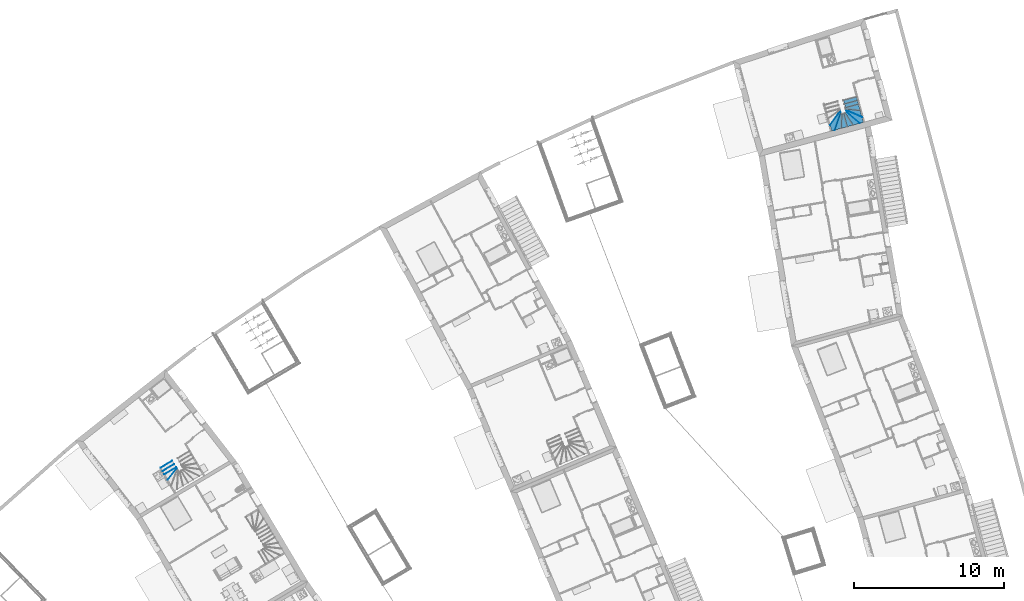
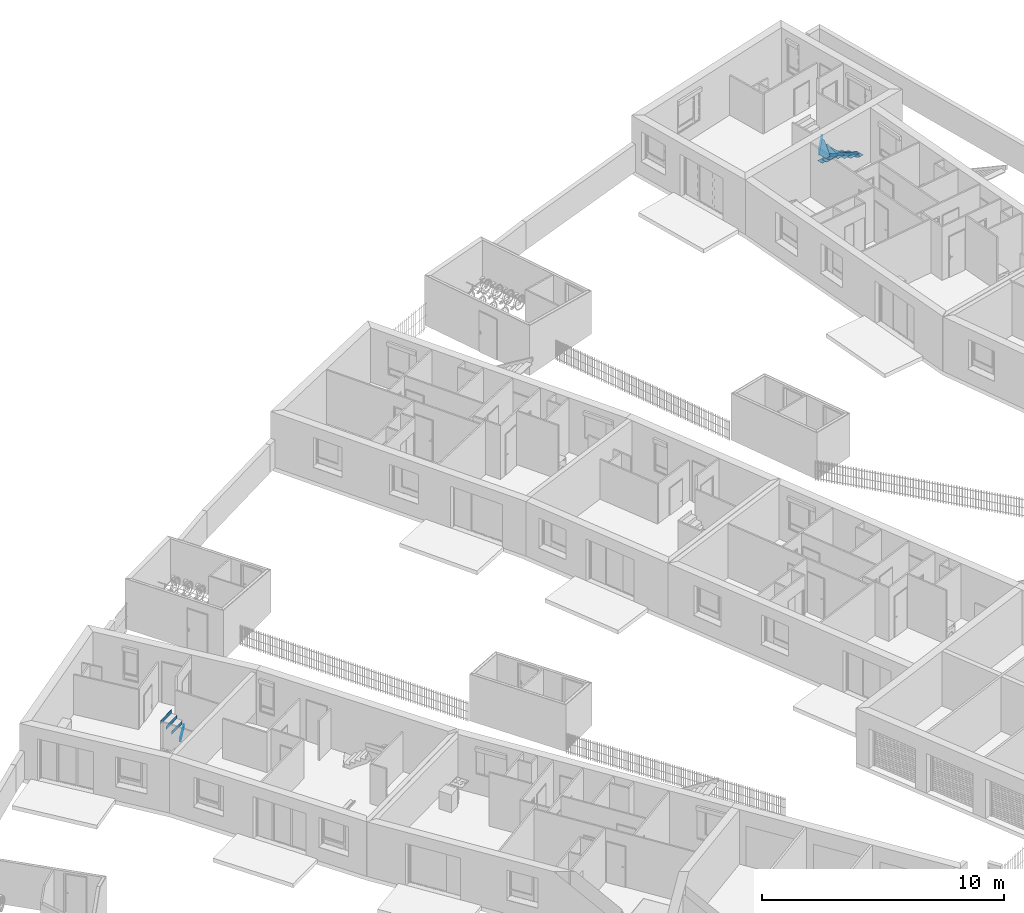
# One storey, part 103 of 195: 33 members, 4 elements without a shape of their own.
"""IFC2X3 building model written with IfcOpenShell, lengths in metres."""

from ifc_helpers import new_model, entity, si_unit, converted_unit, derived_unit, money_unit, direction, frame, origin_with_axes, place, context, subcontext, project, spatial, faceted_brep, material, type_object, element, aggregate, save


model = new_model("IFC2X3")

# Units and contexts
model_context = context("Model", 3, precision=1e-05, world=origin_with_axes(), true_north=direction((0.0, 1.0)))
body_context = subcontext(model_context, "Body", "Model", "MODEL_VIEW")
ifc_project = project(units=[si_unit("LENGTHUNIT", "METRE"), si_unit("AREAUNIT", "SQUARE_METRE"), si_unit("VOLUMEUNIT", "CUBIC_METRE"), converted_unit("PLANEANGLEUNIT", "DEGREE", entity("IfcPlaneAngleMeasure", 0.0174532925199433), si_unit("PLANEANGLEUNIT", "RADIAN"), dimensions=[0, 0, 0, 0, 0, 0, 0]), money_unit("CHF"), converted_unit("TIMEUNIT", "Year", entity("IfcTimeMeasure", 31557600.0), si_unit("TIMEUNIT", "SECOND"), dimensions=[0, 0, 1, 0, 0, 0, 0]), si_unit("MASSUNIT", "GRAM", prefix="KILO"), si_unit("THERMODYNAMICTEMPERATUREUNIT", "DEGREE_CELSIUS"), si_unit("LUMINOUSINTENSITYUNIT", "LUMEN"), si_unit("ENERGYUNIT", "JOULE", prefix="MEGA"), derived_unit("THERMALCONDUCTANCEUNIT", [(si_unit("POWERUNIT", "WATT"), 1), (si_unit("LENGTHUNIT", "METRE"), -1), (si_unit("THERMODYNAMICTEMPERATUREUNIT", "KELVIN"), -1)]), derived_unit("SPECIFICHEATCAPACITYUNIT", [(si_unit("ENERGYUNIT", "JOULE"), 1), (si_unit("MASSUNIT", "GRAM", prefix="KILO"), -1), (si_unit("THERMODYNAMICTEMPERATUREUNIT", "KELVIN"), -1)]), derived_unit("MASSDENSITYUNIT", [(si_unit("MASSUNIT", "GRAM", prefix="KILO"), 1), (si_unit("VOLUMEUNIT", "CUBIC_METRE"), -1)])], contexts=[model_context])

# Site, building, storey
site_placement = place(None, origin_with_axes())
site = spatial("IfcSite", under=ifc_project, at=site_placement, Name="Site", CompositionType="ELEMENT")
building_placement = place(site_placement, origin_with_axes())
building = spatial("IfcBuilding", under=site, at=building_placement, Name="Bâtiment", CompositionType="ELEMENT")
storey_placement = place(building_placement, origin_with_axes())
storey = spatial("IfcBuildingStorey", under=building, at=storey_placement, Name="rdc", CompositionType="ELEMENT", Elevation=0.0)

# Stair, members
stair_1_placement = place(storey_placement, frame((9542.358293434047, -1043.385861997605, 57.0), z_axis=(0.0, 0.0, 1.0), x_axis=(0.5118296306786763, -0.8590869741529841, 0.0)))
stair_1 = element("IfcStair", 1, at=stair_1_placement, inside=storey, Name="ESC-014", ShapeType="NOTDEFINED")
ifc_material = material(Name="Lame d'air 275581351")
member_type = type_object("IfcMemberType", Name="IfcMember", PredefinedType="NOTDEFINED")
member_1_placement = place(stair_1_placement, frame((-0.3574520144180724, -1.73797666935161, 2.329999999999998), z_axis=(0.0, 0.0, 1.0), x_axis=(-2.364303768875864e-07, 0.9999999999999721, 0.0)))
member_1 = element("IfcMember", 2, at=member_1_placement, type_object=member_type, material=ifc_material, Name="C-MARCHE-243", context=body_context, shape_type="Brep", body=[
    faceted_brep([(0.4600000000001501, 0.01499999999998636, 0.0), (0.4600000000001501, 0.02499999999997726, 0.0), (-0.4399999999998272, 0.02500000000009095, 0.0), (-0.4399999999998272, 0.01499999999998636, 0.0), (0.4600000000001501, 0.01499999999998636, -0.1700000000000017), (0.4600000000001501, 0.02499999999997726, -0.1700000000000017), (-0.4399999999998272, 0.02500000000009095, -0.1700000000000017), (-0.4399999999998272, 0.01499999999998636, -0.1700000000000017)], [[[0, 1, 2, 3]], [[0, 4, 5, 1]], [[1, 5, 6, 2]], [[3, 2, 6, 7]], [[4, 0, 3, 7]], [[5, 4, 7, 6]]]),
])
member_2_placement = place(stair_1_placement, frame((-0.1022567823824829, -1.737976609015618, 2.149999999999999), z_axis=(0.0, 0.0, 1.0), x_axis=(-0.3625707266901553, 0.9319562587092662, 0.0)))
member_2 = element("IfcMember", 3, at=member_2_placement, type_object=member_type, material=ifc_material, Name="C-MARCHE-242", context=body_context, shape_type="Brep", body=[
    faceted_brep([(0.4994209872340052, 0.01500000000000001, 0.0), (0.5033114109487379, 0.02500000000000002, 0.0), (-0.462399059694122, 0.0249999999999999, 0.0), (-0.4662894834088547, 0.0149999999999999, 0.0), (0.4994209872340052, 0.01500000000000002, -0.1700000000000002), (0.5033114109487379, 0.02500000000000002, -0.1700000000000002), (-0.462399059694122, 0.02499999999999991, -0.1700000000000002), (-0.4662894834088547, 0.01499999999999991, -0.1700000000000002)], [[[0, 1, 2, 3]], [[0, 4, 5, 1]], [[1, 5, 6, 2]], [[3, 2, 6, 7]], [[4, 0, 3, 7]], [[5, 4, 7, 6]]]),
])
member_3_placement = place(stair_1_placement, frame((-0.6126472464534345, -1.737976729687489, 2.509999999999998), z_axis=(0.0, 0.0, 1.0), x_axis=(-2.364303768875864e-07, 0.9999999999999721, 0.0)))
member_3 = element("IfcMember", 4, at=member_3_placement, type_object=member_type, material=ifc_material, Name="C-MARCHE-244", context=body_context, shape_type="Brep", body=[
    faceted_brep([(0.4600000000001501, 0.01499999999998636, 0.0), (0.4600000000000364, 0.02499999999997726, 0.0), (-0.4400000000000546, 0.02499999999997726, 0.0), (-0.4399999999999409, 0.01499999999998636, 0.0), (0.4600000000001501, 0.01499999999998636, -0.1700000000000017), (0.4600000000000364, 0.02499999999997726, -0.1700000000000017), (-0.4400000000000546, 0.02499999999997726, -0.1700000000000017), (-0.4399999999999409, 0.01499999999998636, -0.1700000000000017)], [[[0, 1, 2, 3]], [[0, 4, 5, 1]], [[1, 5, 6, 2]], [[3, 2, 6, 7]], [[4, 0, 3, 7]], [[5, 4, 7, 6]]]),
])
member_4_placement = place(stair_1_placement, frame((-0.8678424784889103, -1.737976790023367, 2.700000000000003), z_axis=(0.0, 0.0, 1.0), x_axis=(-2.364303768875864e-07, 0.9999999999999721, 0.0)))
member_4 = element("IfcMember", 5, at=member_4_placement, type_object=member_type, material=ifc_material, Name="C-MARCHE-245", context=body_context, shape_type="Brep", body=[
    faceted_brep([(0.4599999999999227, 0.01499999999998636, 0.0), (0.4599999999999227, 0.02499999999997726, 0.0), (-0.4400000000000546, 0.02499999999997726, 0.0), (-0.4400000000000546, 0.01499999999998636, 0.0), (0.4599999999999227, 0.01499999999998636, -0.1799999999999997), (0.4599999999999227, 0.02499999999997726, -0.1799999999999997), (-0.4400000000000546, 0.02499999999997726, -0.1799999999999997), (-0.4400000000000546, 0.01499999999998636, -0.1799999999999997)], [[[0, 1, 2, 3]], [[0, 4, 5, 1]], [[1, 5, 6, 2]], [[3, 2, 6, 7]], [[4, 0, 3, 7]], [[5, 4, 7, 6]]]),
])
aggregate(stair_1, [member_1, member_2, member_3, member_4])

stair_2_placement = place(storey_placement, frame((9586.532297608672, -1019.891691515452, 57.0), z_axis=(0.0, 0.0, 1.0), x_axis=(0.2627338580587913, -0.9648683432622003, 0.0)))
stair_2 = element("IfcStair", 6, at=stair_2_placement, inside=storey, Name="ESC-014", ShapeType="NOTDEFINED")
member_5_placement = place(stair_2_placement, frame((0.1501360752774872, -0.4512523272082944, 0.8900000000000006), z_axis=(0.0, 0.0, 1.0), x_axis=(-0.6269327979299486, -0.7790733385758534, 0.0)))
member_5 = element("IfcMember", 7, at=member_5_placement, type_object=member_type, material=ifc_material, Name="C-MARCHE-235", context=body_context, shape_type="Brep", body=[
    faceted_brep([(0.546040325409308, 0.0150000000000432, 0.0), (0.5379931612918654, 0.02500000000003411, 0.0), (-0.6172256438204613, 0.02500000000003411, 0.0), (-0.6091784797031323, 0.01499999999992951, 0.0), (0.546040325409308, 0.0150000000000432, -0.1700000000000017), (0.5379931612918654, 0.02500000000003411, -0.1700000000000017), (-0.6172256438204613, 0.02500000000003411, -0.1700000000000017), (-0.6091784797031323, 0.01499999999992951, -0.1700000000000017)], [[[0, 1, 2, 3]], [[0, 4, 5, 1]], [[1, 5, 6, 2]], [[3, 2, 6, 7]], [[4, 0, 3, 7]], [[5, 4, 7, 6]]]),
])
member_6_placement = place(stair_2_placement, frame((0.3566544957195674, -0.595548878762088, 1.07), z_axis=(0.0, 0.0, 1.0), x_axis=(-0.8264538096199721, -0.5630045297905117, 0.0)))
member_6 = element("IfcMember", 8, at=member_6_placement, type_object=member_type, material=ifc_material, Name="C-MARCHE-236", context=body_context, shape_type="Brep", body=[
    faceted_brep([(0.4939854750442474, 0.0149999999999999, 0.0), (0.4793061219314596, 0.0249999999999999, 0.0), (-0.6404114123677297, 0.02499999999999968, 0.0), (-0.6472237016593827, 0.01499999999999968, 0.0), (0.4939854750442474, 0.01499999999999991, -0.1699999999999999), (0.4793061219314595, 0.02499999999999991, -0.1699999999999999), (-0.6404114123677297, 0.02499999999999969, -0.1699999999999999), (-0.6472237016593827, 0.01499999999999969, -0.1699999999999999)], [[[0, 1, 2, 3]], [[0, 4, 5, 1]], [[1, 5, 6, 2]], [[3, 2, 6, 7]], [[4, 0, 3, 7]], [[5, 4, 7, 6]]]),
])
member_7_placement = place(stair_2_placement, frame((-0.8678427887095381, -0.4260619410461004, 0.1799999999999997), z_axis=(0.0, 0.0, 1.0), x_axis=(2.365009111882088e-07, -0.9999999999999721, 0.0)))
member_7 = element("IfcMember", 9, at=member_7_placement, type_object=member_type, material=ifc_material, Name="MARCHE-223", context=body_context, shape_type="Brep", body=[
    faceted_brep([(-0.44, 0.0, -0.01), (0.4600000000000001, 0.0, -0.01), (0.4600000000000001, 0.0, 0.0), (-0.44, 0.0, 0.0), (-0.4399999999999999, 0.280195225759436, -0.01), (0.4600000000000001, 0.2801952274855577, -0.01), (0.4600000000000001, 0.2801952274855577, 0.0), (-0.4399999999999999, 0.280195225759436, 0.0)], [[[0, 1, 2, 3]], [[0, 4, 5, 1]], [[1, 5, 6, 2]], [[3, 2, 6, 7]], [[4, 0, 3, 7]], [[5, 4, 7, 6]]]),
])
member_8_placement = place(stair_2_placement, frame((-0.6126475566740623, -0.426061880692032, 0.3599999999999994), z_axis=(0.0, 0.0, 1.0), x_axis=(2.365009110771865e-07, -0.9999999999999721, 0.0)))
member_8 = element("IfcMember", 10, at=member_8_placement, type_object=member_type, material=ifc_material, Name="MARCHE-224", context=body_context, shape_type="Brep", body=[
    faceted_brep([(-0.44, 0.0, -0.01), (0.4600000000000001, 0.0, -0.01), (0.4600000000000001, 0.0, 0.0), (-0.44, 0.0, 0.0), (-0.4399999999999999, 0.280195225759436, -0.01), (0.4600000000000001, 0.2801952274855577, -0.01), (0.4600000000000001, 0.2801952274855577, 0.0), (-0.4399999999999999, 0.280195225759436, 0.0)], [[[0, 1, 2, 3]], [[0, 4, 5, 1]], [[1, 5, 6, 2]], [[3, 2, 6, 7]], [[4, 0, 3, 7]], [[5, 4, 7, 6]]]),
])
member_9_placement = place(stair_2_placement, frame((-0.3574523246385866, -0.426061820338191, 0.5399999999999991), z_axis=(0.0, 0.0, 1.0), x_axis=(2.365009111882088e-07, -0.999999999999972, 0.0)))
member_9 = element("IfcMember", 11, at=member_9_placement, type_object=member_type, material=ifc_material, Name="MARCHE-225", context=body_context, shape_type="Brep", body=[
    faceted_brep([(-0.4399999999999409, 0.0, -0.00999999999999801), (0.4599999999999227, 0.0, -0.00999999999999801), (0.4599999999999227, 0.0, 0.0), (-0.4399999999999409, 0.0, 0.0), (-0.4399999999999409, 0.4531991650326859, -0.00999999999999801), (0.4600000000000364, 0.1030610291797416, -0.00999999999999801), (0.4600000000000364, 0.1030610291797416, 0.0), (-0.4399999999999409, 0.4531991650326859, 0.0)], [[[0, 1, 2, 3]], [[0, 4, 5, 1]], [[1, 5, 6, 2]], [[3, 2, 6, 7]], [[4, 0, 3, 7]], [[5, 4, 7, 6]]]),
])
member_10_placement = place(stair_2_placement, frame((0.1501360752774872, -0.4512523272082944, 0.8999999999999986), z_axis=(0.0, 0.0, 1.0), x_axis=(-0.6269327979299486, -0.7790733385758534, 0.0)))
member_10 = element("IfcMember", 12, at=member_10_placement, type_object=member_type, material=ifc_material, Name="MARCHE-227", context=body_context, shape_type="Brep", body=[
    faceted_brep([(-0.5971077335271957, 0.0, -0.00999999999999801), (0.5581110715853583, 0.0, -0.00999999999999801), (0.5581110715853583, 0.0, 0.0), (-0.5971077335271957, 0.0, 0.0), (-0.8325320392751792, 0.292555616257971, -0.00999999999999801), (-0.6224984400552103, 0.4615731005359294, -0.00999999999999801), (0.4487944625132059, 0.1358448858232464, -0.00999999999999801), (0.4487944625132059, 0.1358448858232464, 0.0), (-0.6224984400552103, 0.4615731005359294, 0.0), (-0.8325320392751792, 0.292555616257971, 0.0)], [[[0, 1, 2, 3]], [[0, 4, 5, 6, 1]], [[1, 6, 7, 2]], [[3, 2, 7, 8, 9]], [[4, 0, 3, 9]], [[5, 4, 9, 8]], [[6, 5, 8, 7]]]),
])
member_11_placement = place(stair_2_placement, frame((-0.1022570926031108, -0.4260617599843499, 0.7199999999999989), z_axis=(0.0, 0.0, 1.0), x_axis=(-0.362570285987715, -0.9319564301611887, 0.0)))
member_11 = element("IfcMember", 13, at=member_11_placement, type_object=member_type, material=ifc_material, Name="MARCHE-226", context=body_context, shape_type="Brep", body=[
    faceted_brep([(-0.4721251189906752, 0.0, -0.00999999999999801), (0.4935853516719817, 0.0, -0.00999999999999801), (0.4935853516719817, 0.0, 0.0), (-0.4721251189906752, 0.0, 0.0), (-0.6489327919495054, 0.4544689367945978, -0.00999999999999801), (0.4524177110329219, 0.1058178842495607, -0.00999999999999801), (0.4524177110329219, 0.1058178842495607, 0.0), (-0.6489327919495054, 0.4544689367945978, 0.0)], [[[0, 1, 2, 3]], [[0, 4, 5, 1]], [[1, 5, 6, 2]], [[3, 2, 6, 7]], [[4, 0, 3, 7]], [[5, 4, 7, 6]]]),
])
member_12_placement = place(stair_2_placement, frame((0.3566544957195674, -0.595548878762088, 1.079999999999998), z_axis=(0.0, 0.0, 1.0), x_axis=(-0.8264538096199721, -0.5630045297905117, 0.0)))
member_12 = element("IfcMember", 14, at=member_12_placement, type_object=member_type, material=ifc_material, Name="MARCHE-228", context=body_context, shape_type="Brep", body=[
    faceted_brep([(-0.6574421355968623, 0.0, -0.01), (0.5160045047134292, 0.0, -0.01), (0.5160045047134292, 0.0, 0.0), (-0.6574421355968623, 0.0, 0.0), (-0.3823180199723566, 0.403864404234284, -0.01), (0.5203138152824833, 0.1303028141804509, -0.01), (0.4583183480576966, 0.03929747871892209, -0.01), (0.4583183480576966, 0.03929747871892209, 0.0), (0.5203138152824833, 0.1303028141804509, 0.0), (-0.3823180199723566, 0.403864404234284, 0.0)], [[[0, 1, 2, 3]], [[0, 4, 5, 6, 1]], [[1, 6, 7, 2]], [[3, 2, 7, 8, 9]], [[4, 0, 3, 9]], [[5, 4, 9, 8]], [[6, 5, 8, 7]]]),
])
member_13_placement = place(stair_2_placement, frame((0.4561912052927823, -0.8269874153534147, 1.259999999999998), z_axis=(0.0, 0.0, 1.0), x_axis=(-0.9542231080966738, -0.2990957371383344, 0.0)))
member_13 = element("IfcMember", 15, at=member_13_placement, type_object=member_type, material=ifc_material, Name="MARCHE-229", context=body_context, shape_type="Brep", body=[
    faceted_brep([(-0.4650997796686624, 0.0, -0.00999999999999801), (0.478075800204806, 0.0, -0.00999999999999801), (0.478075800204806, 0.0, 0.0), (-0.4650997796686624, 0.0, 0.0), (-0.339736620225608, 0.3999539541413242, -0.00999999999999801), (0.5190642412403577, 0.1307679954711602, -0.00999999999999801), (0.5190642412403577, 0.1307679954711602, 0.0), (-0.339736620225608, 0.3999539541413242, 0.0)], [[[0, 1, 2, 3]], [[0, 4, 5, 1]], [[1, 5, 6, 2]], [[3, 2, 6, 7]], [[4, 0, 3, 7]], [[5, 4, 7, 6]]]),
])
member_14_placement = place(stair_2_placement, frame((0.4600002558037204, -1.082019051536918, 1.439999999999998), z_axis=(0.0, 0.0, 1.0), x_axis=(-0.9999999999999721, -2.364141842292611e-07, 0.0)))
member_14 = element("IfcMember", 16, at=member_14_placement, type_object=member_type, material=ifc_material, Name="MARCHE-230", context=body_context, shape_type="Brep", body=[
    faceted_brep([(-0.4399999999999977, 0.0, -0.00999999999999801), (0.4599999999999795, 0.0, -0.00999999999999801), (0.4599999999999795, 0.0, 0.0), (-0.4399999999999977, 0.0, 0.0), (-0.4399999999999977, 0.420340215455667, -0.00999999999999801), (0.4600000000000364, 0.138240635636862, -0.00999999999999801), (0.4600000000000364, 0.138240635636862, 0.0), (-0.4399999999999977, 0.420340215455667, 0.0)], [[[0, 1, 2, 3]], [[0, 4, 5, 1]], [[1, 5, 6, 2]], [[3, 2, 6, 7]], [[4, 0, 3, 7]], [[5, 4, 7, 6]]]),
])
member_15_placement = place(stair_2_placement, frame((0.456191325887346, -1.337050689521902, 1.619999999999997), z_axis=(0.0, 0.0, 1.0), x_axis=(-0.954223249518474, 0.299095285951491, 0.0)))
member_15 = element("IfcMember", 17, at=member_15_placement, type_object=member_type, material=ifc_material, Name="MARCHE-231", context=body_context, shape_type="Brep", body=[
    faceted_brep([(-0.4650997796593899, 0.0, -0.00999999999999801), (0.4780758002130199, 0.0, -0.00999999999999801), (0.4780758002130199, 0.0, 0.0), (-0.4650997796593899, 0.0, 0.0), (-0.6124706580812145, 0.4701665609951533, -0.00999999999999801), (0.5619531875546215, 0.114232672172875, -0.00999999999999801), (0.4529768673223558, 0.08007470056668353, -0.00999999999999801), (0.4529768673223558, 0.08007470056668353, 0.0), (0.5619531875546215, 0.114232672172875, 0.0), (-0.6124706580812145, 0.4701665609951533, 0.0)], [[[0, 1, 2, 3]], [[0, 4, 5, 6, 1]], [[1, 6, 7, 2]], [[3, 2, 7, 8, 9]], [[4, 0, 3, 9]], [[5, 4, 9, 8]], [[6, 5, 8, 7]]]),
])
member_16_placement = place(stair_2_placement, frame((0.3566547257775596, -1.568489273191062, 1.799999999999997), z_axis=(0.0, 0.0, 1.0), x_axis=(-0.8264540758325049, 0.5630041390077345, 0.0)))
member_16 = element("IfcMember", 18, at=member_16_placement, type_object=member_type, material=ifc_material, Name="MARCHE-232", context=body_context, shape_type="Brep", body=[
    faceted_brep([(-0.6574421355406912, 0.0, -0.00999999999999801), (0.5160045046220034, 0.0, -0.00999999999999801), (0.5160045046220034, 0.0, 0.0), (-0.6574421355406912, 0.0, 0.0), (-0.7921941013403, 0.19780716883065, -0.00999999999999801), (-0.4553257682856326, 0.4272916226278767, -0.00999999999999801), (0.6499330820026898, 0.09123602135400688, -0.00999999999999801), (0.6499330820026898, 0.09123602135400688, 0.0), (-0.4553257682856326, 0.4272916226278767, 0.0), (-0.7921941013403, 0.19780716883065, 0.0)], [[[0, 1, 2, 3]], [[0, 4, 5, 6, 1]], [[1, 6, 7, 2]], [[3, 2, 7, 8, 9]], [[4, 0, 3, 9]], [[5, 4, 9, 8]], [[6, 5, 8, 7]]]),
])
aggregate(stair_2, [member_5, member_6, member_7, member_8, member_9, member_10, member_11, member_12, member_13, member_14, member_15, member_16])

stair_3_placement = place(storey_placement, frame((9542.358293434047, -1043.385861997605, 57.0), z_axis=(0.0, 0.0, 1.0), x_axis=(0.5118296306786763, -0.8590869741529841, 0.0)))
stair_3 = element("IfcStair", 19, at=stair_3_placement, inside=storey, Name="ESC-014", ShapeType="NOTDEFINED")
member_17_placement = place(stair_3_placement, frame((-0.1022567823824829, -1.737976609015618, 2.149999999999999), z_axis=(0.0, 0.0, 1.0), x_axis=(-0.3625707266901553, 0.9319562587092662, 0.0)))
member_17 = element("IfcMember", 20, at=member_17_placement, type_object=member_type, material=ifc_material, Name="C-MARCHE-242", context=body_context, shape_type="Brep", body=[
    faceted_brep([(0.4994209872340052, 0.01500000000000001, 0.0), (0.5033114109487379, 0.02500000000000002, 0.0), (-0.462399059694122, 0.0249999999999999, 0.0), (-0.4662894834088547, 0.0149999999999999, 0.0), (0.4994209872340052, 0.01500000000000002, -0.1700000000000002), (0.5033114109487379, 0.02500000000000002, -0.1700000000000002), (-0.462399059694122, 0.02499999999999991, -0.1700000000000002), (-0.4662894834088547, 0.01499999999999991, -0.1700000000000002)], [[[0, 1, 2, 3]], [[0, 4, 5, 1]], [[1, 5, 6, 2]], [[3, 2, 6, 7]], [[4, 0, 3, 7]], [[5, 4, 7, 6]]]),
])
member_18_placement = place(stair_3_placement, frame((-0.3574520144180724, -1.73797666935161, 2.329999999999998), z_axis=(0.0, 0.0, 1.0), x_axis=(-2.364303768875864e-07, 0.9999999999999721, 0.0)))
member_18 = element("IfcMember", 21, at=member_18_placement, type_object=member_type, material=ifc_material, Name="C-MARCHE-243", context=body_context, shape_type="Brep", body=[
    faceted_brep([(0.4600000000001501, 0.01499999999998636, 0.0), (0.4600000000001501, 0.02499999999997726, 0.0), (-0.4399999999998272, 0.02500000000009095, 0.0), (-0.4399999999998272, 0.01499999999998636, 0.0), (0.4600000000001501, 0.01499999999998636, -0.1700000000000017), (0.4600000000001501, 0.02499999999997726, -0.1700000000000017), (-0.4399999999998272, 0.02500000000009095, -0.1700000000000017), (-0.4399999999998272, 0.01499999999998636, -0.1700000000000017)], [[[0, 1, 2, 3]], [[0, 4, 5, 1]], [[1, 5, 6, 2]], [[3, 2, 6, 7]], [[4, 0, 3, 7]], [[5, 4, 7, 6]]]),
])
member_19_placement = place(stair_3_placement, frame((-0.6126472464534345, -1.737976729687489, 2.509999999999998), z_axis=(0.0, 0.0, 1.0), x_axis=(-2.364303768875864e-07, 0.9999999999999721, 0.0)))
member_19 = element("IfcMember", 22, at=member_19_placement, type_object=member_type, material=ifc_material, Name="C-MARCHE-244", context=body_context, shape_type="Brep", body=[
    faceted_brep([(0.4600000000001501, 0.01499999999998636, 0.0), (0.4600000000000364, 0.02499999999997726, 0.0), (-0.4400000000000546, 0.02499999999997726, 0.0), (-0.4399999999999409, 0.01499999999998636, 0.0), (0.4600000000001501, 0.01499999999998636, -0.1700000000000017), (0.4600000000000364, 0.02499999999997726, -0.1700000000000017), (-0.4400000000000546, 0.02499999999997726, -0.1700000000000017), (-0.4399999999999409, 0.01499999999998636, -0.1700000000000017)], [[[0, 1, 2, 3]], [[0, 4, 5, 1]], [[1, 5, 6, 2]], [[3, 2, 6, 7]], [[4, 0, 3, 7]], [[5, 4, 7, 6]]]),
])
aggregate(stair_3, [member_17, member_18, member_19])

stair_4_placement = place(storey_placement, frame((9586.532297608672, -1019.891691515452, 57.0), z_axis=(0.0, 0.0, 1.0), x_axis=(0.2627338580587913, -0.9648683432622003, 0.0)))
stair_4 = element("IfcStair", 23, at=stair_4_placement, inside=storey, Name="ESC-014", ShapeType="NOTDEFINED")
member_20_placement = place(stair_4_placement, frame((0.1501360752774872, -0.4512523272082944, 0.8900000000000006), z_axis=(0.0, 0.0, 1.0), x_axis=(-0.6269327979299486, -0.7790733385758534, 0.0)))
member_20 = element("IfcMember", 24, at=member_20_placement, type_object=member_type, material=ifc_material, Name="C-MARCHE-235", context=body_context, shape_type="Brep", body=[
    faceted_brep([(0.546040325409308, 0.0150000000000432, 0.0), (0.5379931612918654, 0.02500000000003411, 0.0), (-0.6172256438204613, 0.02500000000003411, 0.0), (-0.6091784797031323, 0.01499999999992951, 0.0), (0.546040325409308, 0.0150000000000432, -0.1700000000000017), (0.5379931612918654, 0.02500000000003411, -0.1700000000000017), (-0.6172256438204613, 0.02500000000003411, -0.1700000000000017), (-0.6091784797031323, 0.01499999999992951, -0.1700000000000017)], [[[0, 1, 2, 3]], [[0, 4, 5, 1]], [[1, 5, 6, 2]], [[3, 2, 6, 7]], [[4, 0, 3, 7]], [[5, 4, 7, 6]]]),
])
member_21_placement = place(stair_4_placement, frame((0.3566544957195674, -0.595548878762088, 1.07), z_axis=(0.0, 0.0, 1.0), x_axis=(-0.8264538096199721, -0.5630045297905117, 0.0)))
member_21 = element("IfcMember", 25, at=member_21_placement, type_object=member_type, material=ifc_material, Name="C-MARCHE-236", context=body_context, shape_type="Brep", body=[
    faceted_brep([(0.4939854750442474, 0.0149999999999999, 0.0), (0.4793061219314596, 0.0249999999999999, 0.0), (-0.6404114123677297, 0.02499999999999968, 0.0), (-0.6472237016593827, 0.01499999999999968, 0.0), (0.4939854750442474, 0.01499999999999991, -0.1699999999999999), (0.4793061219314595, 0.02499999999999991, -0.1699999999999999), (-0.6404114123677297, 0.02499999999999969, -0.1699999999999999), (-0.6472237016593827, 0.01499999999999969, -0.1699999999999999)], [[[0, 1, 2, 3]], [[0, 4, 5, 1]], [[1, 5, 6, 2]], [[3, 2, 6, 7]], [[4, 0, 3, 7]], [[5, 4, 7, 6]]]),
])
member_22_placement = place(stair_4_placement, frame((0.3566547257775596, -1.568489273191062, 1.789999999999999), z_axis=(0.0, 0.0, 1.0), x_axis=(-0.8264540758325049, 0.5630041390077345, 0.0)))
member_22 = element("IfcMember", 26, at=member_22_placement, type_object=member_type, material=ifc_material, Name="C-MARCHE-240", context=body_context, shape_type="Brep", body=[
    faceted_brep([(0.5380235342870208, 0.01499999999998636, 0.0), (0.5527028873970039, 0.02499999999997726, 0.0), (-0.6744728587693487, 0.02499999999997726, 0.0), (-0.6676605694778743, 0.01499999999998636, 0.0), (0.5380235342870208, 0.01499999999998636, -0.1700000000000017), (0.5527028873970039, 0.02499999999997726, -0.1700000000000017), (-0.6744728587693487, 0.02499999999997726, -0.1700000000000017), (-0.6676605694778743, 0.01499999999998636, -0.1700000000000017)], [[[0, 1, 2, 3]], [[0, 4, 5, 1]], [[1, 5, 6, 2]], [[3, 2, 6, 7]], [[4, 0, 3, 7]], [[5, 4, 7, 6]]]),
])
member_23_placement = place(stair_4_placement, frame((0.1501363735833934, -1.712785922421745, 1.969999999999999), z_axis=(0.0, 0.0, 1.0), x_axis=(-0.6269331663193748, 0.7790730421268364, 0.0)))
member_23 = element("IfcMember", 27, at=member_23_placement, type_object=member_type, material=ifc_material, Name="C-MARCHE-241", context=body_context, shape_type="Brep", body=[
    faceted_brep([(0.5701818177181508, 0.01499999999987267, 0.0), (0.5782289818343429, 0.02499999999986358, 0.0), (-0.5769898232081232, 0.02499999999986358, 0.0), (-0.5850369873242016, 0.01499999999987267, 0.0), (0.5701818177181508, 0.01499999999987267, -0.1700000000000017), (0.5782289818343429, 0.02499999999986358, -0.1700000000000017), (-0.5769898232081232, 0.02499999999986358, -0.1700000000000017), (-0.5850369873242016, 0.01499999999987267, -0.1700000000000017)], [[[0, 1, 2, 3]], [[0, 4, 5, 1]], [[1, 5, 6, 2]], [[3, 2, 6, 7]], [[4, 0, 3, 7]], [[5, 4, 7, 6]]]),
])
member_24_placement = place(stair_4_placement, frame((-0.8678427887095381, -0.4260619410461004, 0.1799999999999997), z_axis=(0.0, 0.0, 1.0), x_axis=(2.365009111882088e-07, -0.9999999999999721, 0.0)))
member_24 = element("IfcMember", 28, at=member_24_placement, type_object=member_type, material=ifc_material, Name="MARCHE-223", context=body_context, shape_type="Brep", body=[
    faceted_brep([(-0.44, 0.0, -0.01), (0.4600000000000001, 0.0, -0.01), (0.4600000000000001, 0.0, 0.0), (-0.44, 0.0, 0.0), (-0.4399999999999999, 0.280195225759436, -0.01), (0.4600000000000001, 0.2801952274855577, -0.01), (0.4600000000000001, 0.2801952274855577, 0.0), (-0.4399999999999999, 0.280195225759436, 0.0)], [[[0, 1, 2, 3]], [[0, 4, 5, 1]], [[1, 5, 6, 2]], [[3, 2, 6, 7]], [[4, 0, 3, 7]], [[5, 4, 7, 6]]]),
])
member_25_placement = place(stair_4_placement, frame((-0.6126475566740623, -0.426061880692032, 0.3599999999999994), z_axis=(0.0, 0.0, 1.0), x_axis=(2.365009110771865e-07, -0.9999999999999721, 0.0)))
member_25 = element("IfcMember", 29, at=member_25_placement, type_object=member_type, material=ifc_material, Name="MARCHE-224", context=body_context, shape_type="Brep", body=[
    faceted_brep([(-0.44, 0.0, -0.01), (0.4600000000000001, 0.0, -0.01), (0.4600000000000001, 0.0, 0.0), (-0.44, 0.0, 0.0), (-0.4399999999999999, 0.280195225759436, -0.01), (0.4600000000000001, 0.2801952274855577, -0.01), (0.4600000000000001, 0.2801952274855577, 0.0), (-0.4399999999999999, 0.280195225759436, 0.0)], [[[0, 1, 2, 3]], [[0, 4, 5, 1]], [[1, 5, 6, 2]], [[3, 2, 6, 7]], [[4, 0, 3, 7]], [[5, 4, 7, 6]]]),
])
member_26_placement = place(stair_4_placement, frame((0.1501360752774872, -0.4512523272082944, 0.8999999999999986), z_axis=(0.0, 0.0, 1.0), x_axis=(-0.6269327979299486, -0.7790733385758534, 0.0)))
member_26 = element("IfcMember", 30, at=member_26_placement, type_object=member_type, material=ifc_material, Name="MARCHE-227", context=body_context, shape_type="Brep", body=[
    faceted_brep([(-0.5971077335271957, 0.0, -0.00999999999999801), (0.5581110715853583, 0.0, -0.00999999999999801), (0.5581110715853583, 0.0, 0.0), (-0.5971077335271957, 0.0, 0.0), (-0.8325320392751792, 0.292555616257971, -0.00999999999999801), (-0.6224984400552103, 0.4615731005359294, -0.00999999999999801), (0.4487944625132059, 0.1358448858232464, -0.00999999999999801), (0.4487944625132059, 0.1358448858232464, 0.0), (-0.6224984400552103, 0.4615731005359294, 0.0), (-0.8325320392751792, 0.292555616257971, 0.0)], [[[0, 1, 2, 3]], [[0, 4, 5, 6, 1]], [[1, 6, 7, 2]], [[3, 2, 7, 8, 9]], [[4, 0, 3, 9]], [[5, 4, 9, 8]], [[6, 5, 8, 7]]]),
])
member_27_placement = place(stair_4_placement, frame((-0.1022570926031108, -0.4260617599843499, 0.7199999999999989), z_axis=(0.0, 0.0, 1.0), x_axis=(-0.362570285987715, -0.9319564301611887, 0.0)))
member_27 = element("IfcMember", 31, at=member_27_placement, type_object=member_type, material=ifc_material, Name="MARCHE-226", context=body_context, shape_type="Brep", body=[
    faceted_brep([(-0.4721251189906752, 0.0, -0.00999999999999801), (0.4935853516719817, 0.0, -0.00999999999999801), (0.4935853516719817, 0.0, 0.0), (-0.4721251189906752, 0.0, 0.0), (-0.6489327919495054, 0.4544689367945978, -0.00999999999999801), (0.4524177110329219, 0.1058178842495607, -0.00999999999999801), (0.4524177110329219, 0.1058178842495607, 0.0), (-0.6489327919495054, 0.4544689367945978, 0.0)], [[[0, 1, 2, 3]], [[0, 4, 5, 1]], [[1, 5, 6, 2]], [[3, 2, 6, 7]], [[4, 0, 3, 7]], [[5, 4, 7, 6]]]),
])
member_28_placement = place(stair_4_placement, frame((0.4561912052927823, -0.8269874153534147, 1.259999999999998), z_axis=(0.0, 0.0, 1.0), x_axis=(-0.9542231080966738, -0.2990957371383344, 0.0)))
member_28 = element("IfcMember", 32, at=member_28_placement, type_object=member_type, material=ifc_material, Name="MARCHE-229", context=body_context, shape_type="Brep", body=[
    faceted_brep([(-0.4650997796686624, 0.0, -0.00999999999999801), (0.478075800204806, 0.0, -0.00999999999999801), (0.478075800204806, 0.0, 0.0), (-0.4650997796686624, 0.0, 0.0), (-0.339736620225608, 0.3999539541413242, -0.00999999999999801), (0.5190642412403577, 0.1307679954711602, -0.00999999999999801), (0.5190642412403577, 0.1307679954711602, 0.0), (-0.339736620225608, 0.3999539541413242, 0.0)], [[[0, 1, 2, 3]], [[0, 4, 5, 1]], [[1, 5, 6, 2]], [[3, 2, 6, 7]], [[4, 0, 3, 7]], [[5, 4, 7, 6]]]),
])
member_29_placement = place(stair_4_placement, frame((0.3566544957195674, -0.595548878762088, 1.079999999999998), z_axis=(0.0, 0.0, 1.0), x_axis=(-0.8264538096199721, -0.5630045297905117, 0.0)))
member_29 = element("IfcMember", 33, at=member_29_placement, type_object=member_type, material=ifc_material, Name="MARCHE-228", context=body_context, shape_type="Brep", body=[
    faceted_brep([(-0.6574421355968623, 0.0, -0.01), (0.5160045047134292, 0.0, -0.01), (0.5160045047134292, 0.0, 0.0), (-0.6574421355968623, 0.0, 0.0), (-0.3823180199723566, 0.403864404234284, -0.01), (0.5203138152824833, 0.1303028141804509, -0.01), (0.4583183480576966, 0.03929747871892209, -0.01), (0.4583183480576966, 0.03929747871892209, 0.0), (0.5203138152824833, 0.1303028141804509, 0.0), (-0.3823180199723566, 0.403864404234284, 0.0)], [[[0, 1, 2, 3]], [[0, 4, 5, 6, 1]], [[1, 6, 7, 2]], [[3, 2, 7, 8, 9]], [[4, 0, 3, 9]], [[5, 4, 9, 8]], [[6, 5, 8, 7]]]),
])
member_30_placement = place(stair_4_placement, frame((0.4600002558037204, -1.082019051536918, 1.439999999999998), z_axis=(0.0, 0.0, 1.0), x_axis=(-0.9999999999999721, -2.364141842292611e-07, 0.0)))
member_30 = element("IfcMember", 34, at=member_30_placement, type_object=member_type, material=ifc_material, Name="MARCHE-230", context=body_context, shape_type="Brep", body=[
    faceted_brep([(-0.4399999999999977, 0.0, -0.00999999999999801), (0.4599999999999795, 0.0, -0.00999999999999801), (0.4599999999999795, 0.0, 0.0), (-0.4399999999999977, 0.0, 0.0), (-0.4399999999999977, 0.420340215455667, -0.00999999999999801), (0.4600000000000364, 0.138240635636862, -0.00999999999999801), (0.4600000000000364, 0.138240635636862, 0.0), (-0.4399999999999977, 0.420340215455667, 0.0)], [[[0, 1, 2, 3]], [[0, 4, 5, 1]], [[1, 5, 6, 2]], [[3, 2, 6, 7]], [[4, 0, 3, 7]], [[5, 4, 7, 6]]]),
])
member_31_placement = place(stair_4_placement, frame((-0.3574523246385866, -0.426061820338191, 0.5399999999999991), z_axis=(0.0, 0.0, 1.0), x_axis=(2.365009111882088e-07, -0.999999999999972, 0.0)))
member_31 = element("IfcMember", 35, at=member_31_placement, type_object=member_type, material=ifc_material, Name="MARCHE-225", context=body_context, shape_type="Brep", body=[
    faceted_brep([(-0.4399999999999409, 0.0, -0.00999999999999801), (0.4599999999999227, 0.0, -0.00999999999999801), (0.4599999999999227, 0.0, 0.0), (-0.4399999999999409, 0.0, 0.0), (-0.4399999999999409, 0.4531991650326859, -0.00999999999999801), (0.4600000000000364, 0.1030610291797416, -0.00999999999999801), (0.4600000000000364, 0.1030610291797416, 0.0), (-0.4399999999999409, 0.4531991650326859, 0.0)], [[[0, 1, 2, 3]], [[0, 4, 5, 1]], [[1, 5, 6, 2]], [[3, 2, 6, 7]], [[4, 0, 3, 7]], [[5, 4, 7, 6]]]),
])
member_32_placement = place(stair_4_placement, frame((0.3566547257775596, -1.568489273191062, 1.799999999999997), z_axis=(0.0, 0.0, 1.0), x_axis=(-0.8264540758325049, 0.5630041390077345, 0.0)))
member_32 = element("IfcMember", 36, at=member_32_placement, type_object=member_type, material=ifc_material, Name="MARCHE-232", context=body_context, shape_type="Brep", body=[
    faceted_brep([(-0.6574421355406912, 0.0, -0.00999999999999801), (0.5160045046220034, 0.0, -0.00999999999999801), (0.5160045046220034, 0.0, 0.0), (-0.6574421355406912, 0.0, 0.0), (-0.7921941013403, 0.19780716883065, -0.00999999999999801), (-0.4553257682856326, 0.4272916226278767, -0.00999999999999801), (0.6499330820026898, 0.09123602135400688, -0.00999999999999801), (0.6499330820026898, 0.09123602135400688, 0.0), (-0.4553257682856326, 0.4272916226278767, 0.0), (-0.7921941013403, 0.19780716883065, 0.0)], [[[0, 1, 2, 3]], [[0, 4, 5, 6, 1]], [[1, 6, 7, 2]], [[3, 2, 7, 8, 9]], [[4, 0, 3, 9]], [[5, 4, 9, 8]], [[6, 5, 8, 7]]]),
])
member_33_placement = place(stair_4_placement, frame((0.456191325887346, -1.337050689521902, 1.619999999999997), z_axis=(0.0, 0.0, 1.0), x_axis=(-0.954223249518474, 0.299095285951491, 0.0)))
member_33 = element("IfcMember", 37, at=member_33_placement, type_object=member_type, material=ifc_material, Name="MARCHE-231", context=body_context, shape_type="Brep", body=[
    faceted_brep([(-0.4650997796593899, 0.0, -0.00999999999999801), (0.4780758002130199, 0.0, -0.00999999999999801), (0.4780758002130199, 0.0, 0.0), (-0.4650997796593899, 0.0, 0.0), (-0.6124706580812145, 0.4701665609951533, -0.00999999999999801), (0.5619531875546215, 0.114232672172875, -0.00999999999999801), (0.4529768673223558, 0.08007470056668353, -0.00999999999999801), (0.4529768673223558, 0.08007470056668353, 0.0), (0.5619531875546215, 0.114232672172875, 0.0), (-0.6124706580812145, 0.4701665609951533, 0.0)], [[[0, 1, 2, 3]], [[0, 4, 5, 6, 1]], [[1, 6, 7, 2]], [[3, 2, 7, 8, 9]], [[4, 0, 3, 9]], [[5, 4, 9, 8]], [[6, 5, 8, 7]]]),
])
aggregate(stair_4, [member_20, member_21, member_22, member_23, member_24, member_25, member_26, member_27, member_28, member_29, member_30, member_31, member_32, member_33])

save(model, "model.ifc")
